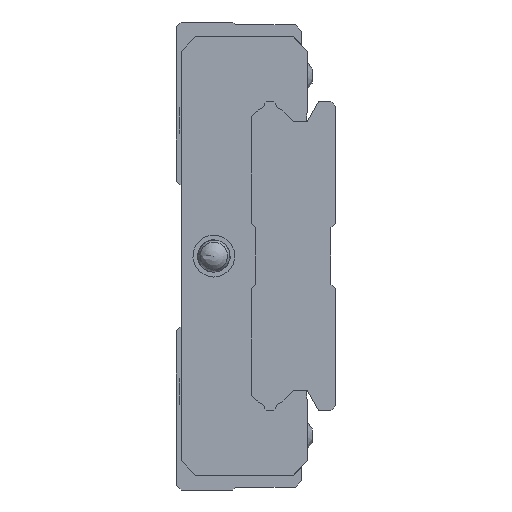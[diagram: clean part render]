
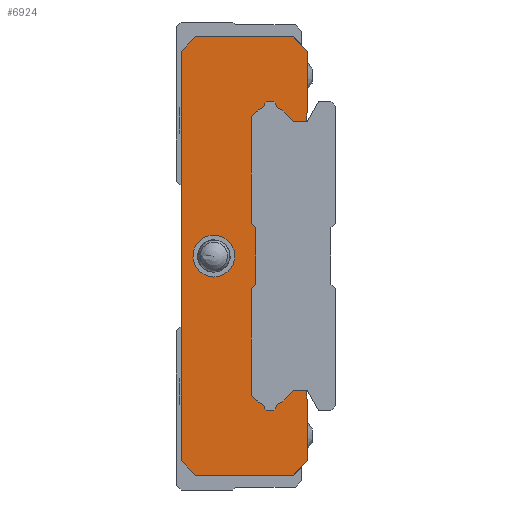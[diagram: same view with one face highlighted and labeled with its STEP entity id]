
A CAD part, left-side view. The second image highlights one B-rep face of the part: STEP entity #6924.
In plain terms, the highlighted planar face has unit normal (-1, 0, 0).
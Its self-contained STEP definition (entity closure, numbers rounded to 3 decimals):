
#37=LINE('',#10696,#363);
#39=LINE('',#10705,#365);
#42=LINE('',#10713,#368);
#43=LINE('',#10715,#369);
#44=LINE('',#10717,#370);
#45=LINE('',#10719,#371);
#46=LINE('',#10721,#372);
#47=LINE('',#10723,#373);
#48=LINE('',#10725,#374);
#49=LINE('',#10727,#375);
#50=LINE('',#10728,#376);
#51=LINE('',#10730,#377);
#52=LINE('',#10732,#378);
#53=LINE('',#10734,#379);
#54=LINE('',#10738,#380);
#55=LINE('',#10740,#381);
#56=LINE('',#10742,#382);
#57=LINE('',#10746,#383);
#58=LINE('',#10748,#384);
#59=LINE('',#10750,#385);
#60=LINE('',#10752,#386);
#61=LINE('',#10754,#387);
#62=LINE('',#10756,#388);
#63=LINE('',#10758,#389);
#64=LINE('',#10762,#390);
#65=LINE('',#10764,#391);
#66=LINE('',#10766,#392);
#67=LINE('',#10770,#393);
#68=LINE('',#10772,#394);
#69=LINE('',#10774,#395);
#363=VECTOR('',#8438,1000.);
#365=VECTOR('',#8446,1000.);
#368=VECTOR('',#8453,1000.);
#369=VECTOR('',#8454,1000.);
#370=VECTOR('',#8455,1000.);
#371=VECTOR('',#8456,1000.);
#372=VECTOR('',#8457,1000.);
#373=VECTOR('',#8458,1000.);
#374=VECTOR('',#8459,1000.);
#375=VECTOR('',#8460,1000.);
#376=VECTOR('',#8461,1000.);
#377=VECTOR('',#8462,1000.);
#378=VECTOR('',#8463,1000.);
#379=VECTOR('',#8464,1000.);
#380=VECTOR('',#8467,1000.);
#381=VECTOR('',#8468,1000.);
#382=VECTOR('',#8469,1000.);
#383=VECTOR('',#8472,1000.);
#384=VECTOR('',#8473,1000.);
#385=VECTOR('',#8474,1000.);
#386=VECTOR('',#8475,1000.);
#387=VECTOR('',#8476,1000.);
#388=VECTOR('',#8477,1000.);
#389=VECTOR('',#8478,1000.);
#390=VECTOR('',#8481,1000.);
#391=VECTOR('',#8482,1000.);
#392=VECTOR('',#8483,1000.);
#393=VECTOR('',#8486,1000.);
#394=VECTOR('',#8487,1000.);
#395=VECTOR('',#8488,1000.);
#709=PLANE('',#7451);
#1194=ORIENTED_EDGE('',*,*,#2812,.T.);
#1195=ORIENTED_EDGE('',*,*,#2813,.T.);
#1196=ORIENTED_EDGE('',*,*,#2805,.F.);
#1197=ORIENTED_EDGE('',*,*,#2814,.F.);
#1198=ORIENTED_EDGE('',*,*,#2815,.F.);
#1199=ORIENTED_EDGE('',*,*,#2816,.F.);
#1200=ORIENTED_EDGE('',*,*,#2817,.F.);
#1201=ORIENTED_EDGE('',*,*,#2818,.F.);
#1202=ORIENTED_EDGE('',*,*,#2819,.F.);
#1203=ORIENTED_EDGE('',*,*,#2820,.F.);
#1204=ORIENTED_EDGE('',*,*,#2809,.F.);
#1205=ORIENTED_EDGE('',*,*,#2821,.T.);
#1206=ORIENTED_EDGE('',*,*,#2822,.T.);
#1207=ORIENTED_EDGE('',*,*,#2823,.T.);
#1208=ORIENTED_EDGE('',*,*,#2824,.T.);
#1209=ORIENTED_EDGE('',*,*,#2825,.F.);
#1210=ORIENTED_EDGE('',*,*,#2826,.T.);
#1211=ORIENTED_EDGE('',*,*,#2827,.T.);
#1212=ORIENTED_EDGE('',*,*,#2828,.T.);
#1213=ORIENTED_EDGE('',*,*,#2829,.F.);
#1214=ORIENTED_EDGE('',*,*,#2830,.T.);
#1215=ORIENTED_EDGE('',*,*,#2831,.T.);
#1216=ORIENTED_EDGE('',*,*,#2832,.T.);
#1217=ORIENTED_EDGE('',*,*,#2833,.T.);
#1218=ORIENTED_EDGE('',*,*,#2834,.T.);
#1219=ORIENTED_EDGE('',*,*,#2835,.T.);
#1220=ORIENTED_EDGE('',*,*,#2836,.T.);
#1221=ORIENTED_EDGE('',*,*,#2837,.F.);
#1222=ORIENTED_EDGE('',*,*,#2838,.T.);
#1223=ORIENTED_EDGE('',*,*,#2839,.T.);
#1224=ORIENTED_EDGE('',*,*,#2840,.T.);
#1225=ORIENTED_EDGE('',*,*,#2841,.F.);
#1226=ORIENTED_EDGE('',*,*,#2842,.T.);
#1227=ORIENTED_EDGE('',*,*,#2843,.T.);
#1228=ORIENTED_EDGE('',*,*,#2844,.T.);
#2805=EDGE_CURVE('',#3617,#3615,#37,.T.);
#2809=EDGE_CURVE('',#3621,#3622,#39,.T.);
#2812=EDGE_CURVE('',#3624,#3624,#4318,.T.);
#2813=EDGE_CURVE('',#3625,#3615,#42,.T.);
#2814=EDGE_CURVE('',#3626,#3617,#43,.T.);
#2815=EDGE_CURVE('',#3627,#3626,#44,.T.);
#2816=EDGE_CURVE('',#3628,#3627,#45,.T.);
#2817=EDGE_CURVE('',#3629,#3628,#46,.T.);
#2818=EDGE_CURVE('',#3630,#3629,#47,.T.);
#2819=EDGE_CURVE('',#3631,#3630,#48,.T.);
#2820=EDGE_CURVE('',#3622,#3631,#49,.T.);
#2821=EDGE_CURVE('',#3621,#3632,#50,.T.);
#2822=EDGE_CURVE('',#3632,#3633,#51,.T.);
#2823=EDGE_CURVE('',#3633,#3634,#52,.T.);
#2824=EDGE_CURVE('',#3634,#3635,#53,.T.);
#2825=EDGE_CURVE('',#3636,#3635,#4319,.T.);
#2826=EDGE_CURVE('',#3636,#3637,#54,.T.);
#2827=EDGE_CURVE('',#3637,#3638,#55,.T.);
#2828=EDGE_CURVE('',#3638,#3639,#56,.T.);
#2829=EDGE_CURVE('',#3640,#3639,#4320,.T.);
#2830=EDGE_CURVE('',#3640,#3641,#57,.T.);
#2831=EDGE_CURVE('',#3641,#3642,#58,.T.);
#2832=EDGE_CURVE('',#3642,#3643,#59,.T.);
#2833=EDGE_CURVE('',#3643,#3644,#60,.T.);
#2834=EDGE_CURVE('',#3644,#3645,#61,.T.);
#2835=EDGE_CURVE('',#3645,#3646,#62,.T.);
#2836=EDGE_CURVE('',#3646,#3647,#63,.T.);
#2837=EDGE_CURVE('',#3648,#3647,#4321,.T.);
#2838=EDGE_CURVE('',#3648,#3649,#64,.T.);
#2839=EDGE_CURVE('',#3649,#3650,#65,.T.);
#2840=EDGE_CURVE('',#3650,#3651,#66,.T.);
#2841=EDGE_CURVE('',#3652,#3651,#4322,.T.);
#2842=EDGE_CURVE('',#3652,#3653,#67,.T.);
#2843=EDGE_CURVE('',#3653,#3654,#68,.T.);
#2844=EDGE_CURVE('',#3654,#3625,#69,.T.);
#3615=VERTEX_POINT('',#10691);
#3617=VERTEX_POINT('',#10695);
#3621=VERTEX_POINT('',#10704);
#3622=VERTEX_POINT('',#10706);
#3624=VERTEX_POINT('',#10712);
#3625=VERTEX_POINT('',#10714);
#3626=VERTEX_POINT('',#10716);
#3627=VERTEX_POINT('',#10718);
#3628=VERTEX_POINT('',#10720);
#3629=VERTEX_POINT('',#10722);
#3630=VERTEX_POINT('',#10724);
#3631=VERTEX_POINT('',#10726);
#3632=VERTEX_POINT('',#10729);
#3633=VERTEX_POINT('',#10731);
#3634=VERTEX_POINT('',#10733);
#3635=VERTEX_POINT('',#10735);
#3636=VERTEX_POINT('',#10737);
#3637=VERTEX_POINT('',#10739);
#3638=VERTEX_POINT('',#10741);
#3639=VERTEX_POINT('',#10743);
#3640=VERTEX_POINT('',#10745);
#3641=VERTEX_POINT('',#10747);
#3642=VERTEX_POINT('',#10749);
#3643=VERTEX_POINT('',#10751);
#3644=VERTEX_POINT('',#10753);
#3645=VERTEX_POINT('',#10755);
#3646=VERTEX_POINT('',#10757);
#3647=VERTEX_POINT('',#10759);
#3648=VERTEX_POINT('',#10761);
#3649=VERTEX_POINT('',#10763);
#3650=VERTEX_POINT('',#10765);
#3651=VERTEX_POINT('',#10767);
#3652=VERTEX_POINT('',#10769);
#3653=VERTEX_POINT('',#10771);
#3654=VERTEX_POINT('',#10773);
#4318=CIRCLE('',#7452,1.5);
#4319=CIRCLE('',#7453,1.04);
#4320=CIRCLE('',#7454,1.04);
#4321=CIRCLE('',#7455,1.04);
#4322=CIRCLE('',#7456,1.04);
#4812=EDGE_LOOP('',(#1194));
#4813=EDGE_LOOP('',(#1195,#1196,#1197,#1198,#1199,#1200,#1201,#1202,#1203,
#1204,#1205,#1206,#1207,#1208,#1209,#1210,#1211,#1212,#1213,#1214,#1215,
#1216,#1217,#1218,#1219,#1220,#1221,#1222,#1223,#1224,#1225,#1226,#1227,
#1228));
#5870=FACE_BOUND('',#4812,.T.);
#5871=FACE_BOUND('',#4813,.T.);
#6924=ADVANCED_FACE('',(#5870,#5871),#709,.F.);
#7451=AXIS2_PLACEMENT_3D('',#10710,#8449,#8450);
#7452=AXIS2_PLACEMENT_3D('',#10711,#8451,#8452);
#7453=AXIS2_PLACEMENT_3D('',#10736,#8465,#8466);
#7454=AXIS2_PLACEMENT_3D('',#10744,#8470,#8471);
#7455=AXIS2_PLACEMENT_3D('',#10760,#8479,#8480);
#7456=AXIS2_PLACEMENT_3D('',#10768,#8484,#8485);
#8438=DIRECTION('',(0.,0.,-1.));
#8446=DIRECTION('',(0.,0.,-1.));
#8449=DIRECTION('',(1.,0.,0.));
#8450=DIRECTION('',(0.,0.,-1.));
#8451=DIRECTION('',(1.,0.,0.));
#8452=DIRECTION('',(0.,0.,-1.));
#8453=DIRECTION('',(0.,-0.316,0.949));
#8454=DIRECTION('',(0.,-0.707,-0.707));
#8455=DIRECTION('',(0.,-1.,0.));
#8456=DIRECTION('',(0.,-0.707,0.707));
#8457=DIRECTION('',(0.,0.,1.));
#8458=DIRECTION('',(0.,0.707,0.707));
#8459=DIRECTION('',(0.,1.,0.));
#8460=DIRECTION('',(0.,0.707,-0.707));
#8461=DIRECTION('',(0.,0.316,0.949));
#8462=DIRECTION('',(0.,0.,1.));
#8463=DIRECTION('',(0.,1.,0.));
#8464=DIRECTION('',(0.,0.707,-0.707));
#8465=DIRECTION('',(1.,0.,0.));
#8466=DIRECTION('',(0.,0.,-1.));
#8467=DIRECTION('',(0.,0.707,-0.707));
#8468=DIRECTION('',(0.,1.,0.));
#8469=DIRECTION('',(0.,0.707,0.707));
#8470=DIRECTION('',(1.,0.,0.));
#8471=DIRECTION('',(0.,0.,-1.));
#8472=DIRECTION('',(0.,0.707,0.707));
#8473=DIRECTION('',(0.,0.,1.));
#8474=DIRECTION('',(0.,-0.707,0.707));
#8475=DIRECTION('',(0.,0.,1.));
#8476=DIRECTION('',(0.,0.707,0.707));
#8477=DIRECTION('',(0.,0.,1.));
#8478=DIRECTION('',(0.,-0.707,0.707));
#8479=DIRECTION('',(1.,0.,0.));
#8480=DIRECTION('',(0.,0.,-1.));
#8481=DIRECTION('',(0.,-0.707,0.707));
#8482=DIRECTION('',(0.,-1.,0.));
#8483=DIRECTION('',(0.,-0.707,-0.707));
#8484=DIRECTION('',(1.,0.,0.));
#8485=DIRECTION('',(0.,0.,-1.));
#8486=DIRECTION('',(0.,-0.707,-0.707));
#8487=DIRECTION('',(0.,-1.,0.));
#8488=DIRECTION('',(0.,0.,1.));
#10691=CARTESIAN_POINT('',(-24.6,0.5,15.487));
#10695=CARTESIAN_POINT('',(-24.6,0.5,21.9));
#10696=CARTESIAN_POINT('',(-24.6,0.5,21.9));
#10704=CARTESIAN_POINT('',(-24.6,0.5,-15.487));
#10705=CARTESIAN_POINT('',(-24.6,0.5,21.9));
#10706=CARTESIAN_POINT('',(-24.6,0.5,-21.9));
#10710=CARTESIAN_POINT('',(-24.6,0.,0.));
#10711=CARTESIAN_POINT('',(-24.6,10.5,0.));
#10712=CARTESIAN_POINT('',(-24.6,10.5,-1.5));
#10713=CARTESIAN_POINT('',(-24.6,0.6,15.187));
#10714=CARTESIAN_POINT('',(-24.6,0.6,15.187));
#10715=CARTESIAN_POINT('',(-24.6,2.,23.4));
#10716=CARTESIAN_POINT('',(-24.6,2.,23.4));
#10717=CARTESIAN_POINT('',(-24.6,12.5,23.4));
#10718=CARTESIAN_POINT('',(-24.6,12.5,23.4));
#10719=CARTESIAN_POINT('',(-24.6,14.,21.9));
#10720=CARTESIAN_POINT('',(-24.6,14.,21.9));
#10721=CARTESIAN_POINT('',(-24.6,14.,-21.9));
#10722=CARTESIAN_POINT('',(-24.6,14.,-21.9));
#10723=CARTESIAN_POINT('',(-24.6,12.5,-23.4));
#10724=CARTESIAN_POINT('',(-24.6,12.5,-23.4));
#10725=CARTESIAN_POINT('',(-24.6,2.,-23.4));
#10726=CARTESIAN_POINT('',(-24.6,2.,-23.4));
#10727=CARTESIAN_POINT('',(-24.6,0.5,-21.9));
#10728=CARTESIAN_POINT('',(-24.6,0.5,-15.487));
#10729=CARTESIAN_POINT('',(-24.6,0.6,-15.187));
#10730=CARTESIAN_POINT('',(-24.6,0.6,-15.187));
#10731=CARTESIAN_POINT('',(-24.6,0.6,-14.35));
#10732=CARTESIAN_POINT('',(-24.6,0.541,-14.35));
#10733=CARTESIAN_POINT('',(-24.6,1.97,-14.35));
#10734=CARTESIAN_POINT('',(-24.6,1.97,-14.35));
#10735=CARTESIAN_POINT('',(-24.6,3.232,-15.612));
#10736=CARTESIAN_POINT('',(-24.6,2.956,-16.615));
#10737=CARTESIAN_POINT('',(-24.6,3.959,-16.339));
#10738=CARTESIAN_POINT('',(-24.6,3.959,-16.339));
#10739=CARTESIAN_POINT('',(-24.6,4.12,-16.5));
#10740=CARTESIAN_POINT('',(-24.6,4.12,-16.5));
#10741=CARTESIAN_POINT('',(-24.6,4.88,-16.5));
#10742=CARTESIAN_POINT('',(-24.6,4.88,-16.5));
#10743=CARTESIAN_POINT('',(-24.6,5.043,-16.337));
#10744=CARTESIAN_POINT('',(-24.6,6.045,-16.615));
#10745=CARTESIAN_POINT('',(-24.6,5.767,-15.613));
#10746=CARTESIAN_POINT('',(-24.6,5.767,-15.613));
#10747=CARTESIAN_POINT('',(-24.6,6.5,-14.88));
#10748=CARTESIAN_POINT('',(-24.6,6.5,-14.88));
#10749=CARTESIAN_POINT('',(-24.6,6.5,-3.5));
#10750=CARTESIAN_POINT('',(-24.6,6.5,-3.5));
#10751=CARTESIAN_POINT('',(-24.6,6.,-3.));
#10752=CARTESIAN_POINT('',(-24.6,6.,-3.));
#10753=CARTESIAN_POINT('',(-24.6,6.,3.));
#10754=CARTESIAN_POINT('',(-24.6,6.,3.));
#10755=CARTESIAN_POINT('',(-24.6,6.5,3.5));
#10756=CARTESIAN_POINT('',(-24.6,6.5,3.5));
#10757=CARTESIAN_POINT('',(-24.6,6.5,14.88));
#10758=CARTESIAN_POINT('',(-24.6,6.5,14.88));
#10759=CARTESIAN_POINT('',(-24.6,5.767,15.613));
#10760=CARTESIAN_POINT('',(-24.6,6.045,16.615));
#10761=CARTESIAN_POINT('',(-24.6,5.043,16.337));
#10762=CARTESIAN_POINT('',(-24.6,5.043,16.337));
#10763=CARTESIAN_POINT('',(-24.6,4.88,16.5));
#10764=CARTESIAN_POINT('',(-24.6,4.88,16.5));
#10765=CARTESIAN_POINT('',(-24.6,4.12,16.5));
#10766=CARTESIAN_POINT('',(-24.6,4.12,16.5));
#10767=CARTESIAN_POINT('',(-24.6,3.959,16.339));
#10768=CARTESIAN_POINT('',(-24.6,2.956,16.615));
#10769=CARTESIAN_POINT('',(-24.6,3.232,15.612));
#10770=CARTESIAN_POINT('',(-24.6,3.232,15.612));
#10771=CARTESIAN_POINT('',(-24.6,1.97,14.35));
#10772=CARTESIAN_POINT('',(-24.6,1.97,14.35));
#10773=CARTESIAN_POINT('',(-24.6,0.6,14.35));
#10774=CARTESIAN_POINT('',(-24.6,0.6,-15.187));
